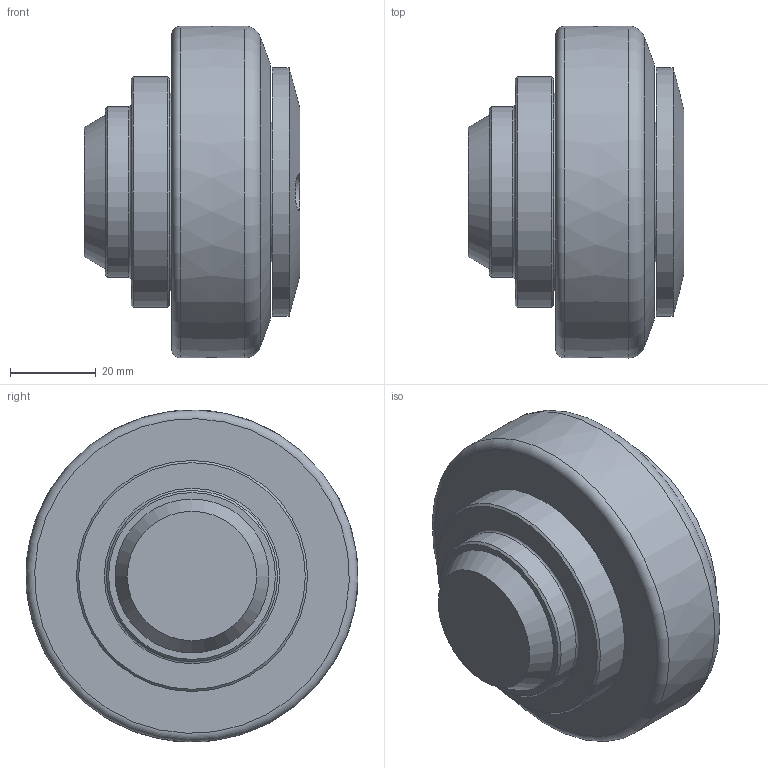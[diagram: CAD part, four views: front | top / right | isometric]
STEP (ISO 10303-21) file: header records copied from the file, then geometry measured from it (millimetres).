
FILE_DESCRIPTION((''),'2;1');
FILE_NAME('K:\Daten\KOMPONENTEN 2D + 3D\Rollen\Tigerrollen\TR xxx.0360\TR 080.0360\ALFATEC_TR 080.0360.stp','2012-07-10T09:34:10',('wenzelburger'),(''),'Autodesk Inventor 2012','Autodesk Inventor 2012','');
FILE_SCHEMA(('AUTOMOTIVE_DESIGN { 1 0 10303 214 1 1 1 1 }'));
Length unit declared in the file: millimetre
Products named in the file (1): TR 080.0360_Konturvereinfachung_1
Bounding box: 50.5 x 77.62 x 77.62 mm (x, y, z)
Volume: 153834.1 mm3; surface area: 22246.3 mm2
Topology: 1 solids, 1 shells, 31 faces, 63 edges, 39 vertices
Faces by surface type: plane 9, cone 9, cylinder 8, torus 4, bspline 1
Full cylindrical faces by diameter (mm): 4.5 x2, 8.6 x2, 32.9 x1, 40 x1, 54 x1, 58 x1
Entity records: 787 total; most frequent: CARTESIAN_POINT 160, DIRECTION 128, ORIENTED_EDGE 70, AXIS2_PLACEMENT_3D 64, EDGE_LOOP 62, EDGE_CURVE 35, VERTEX_POINT 33, CIRCLE 33
